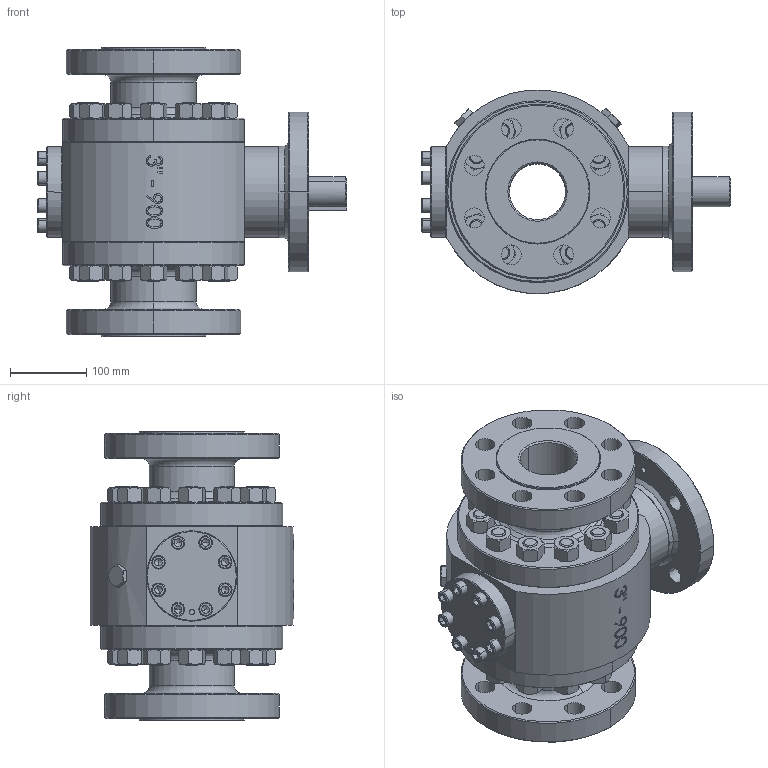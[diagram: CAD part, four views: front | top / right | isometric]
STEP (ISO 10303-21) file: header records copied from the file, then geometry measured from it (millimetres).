
FILE_DESCRIPTION (( 'STEP AP203' ), '1' );
FILE_NAME ('Fig.6090 DN-080 PN-160.STEP', '2017-04-20T10:11:10', ( 'admin' ), ( 'Hewlett-Packard Company' ), 'SwSTEP 2.0', 'SolidWorks 2016', '' );
FILE_SCHEMA (( 'CONFIG_CONTROL_DESIGN' ));
Length unit declared in the file: millimetre
Products named in the file (16): 6090TB080EG; Fig.6090 DN-080 PN-160; 6090TB080FSFF; 6090TB080LRS PN160; 101060CH; DIN 912 M12 x 80 _ 36_DIN 912 M12x1.5 x 65 --- 36N; 6050TB080SA; 6090TB080C_Sin Marcas; SU34752233; DIN 912 M12 x 40 _ 36_DIN 912 M12x1.5 x 65 --- 36N; 6090TB080E; UNC 3_4-10_UNC 3_4-10; 6090TB080PPST; DIN 6325 - 10 x 30; 6090TB080B; Tapón purga 0,75 NPT
Assembly tree (75 placements, depth 2):
  Fig.6090 DN-080 PN-160
    6090TB080C_Sin Marcas
    6090TB080E
    6090TB080PPST
    6090TB080B
    6090TB080EG
    6090TB080FSFF
    6090TB080LRS PN160  x2
    101060CH
    6050TB080SA  x2
    DIN 912 M12 x 40 _ 36_DIN 912 M12x1.5 x 65 --- 36N  x8
    DIN 912 M12 x 80 _ 36_DIN 912 M12x1.5 x 65 --- 36N  x4
    SU34752233  x24
    UNC 3_4-10_UNC 3_4-10  x24
    DIN 6325 - 10 x 30  x2
    Tapón purga 0,75 NPT  x2
Bounding box: 406.7 x 267.51 x 381 mm (x, y, z)
Volume: 13577079.8 mm3; surface area: 1579682.2 mm2
Topology: 75 solids, 75 shells, 2257 faces, 4962 edges, 2867 vertices
Faces by surface type: cone 799, cylinder 676, plane 594, torus 138, bspline 48, sphere 2
Entity records: 46742 total; most frequent: CARTESIAN_POINT 21610, DIRECTION 4928, ORIENTED_EDGE 4176, EDGE_CURVE 2088, AXIS2_PLACEMENT_3D 2064, VERTEX_POINT 1290, EDGE_LOOP 1200, CIRCLE 1082
